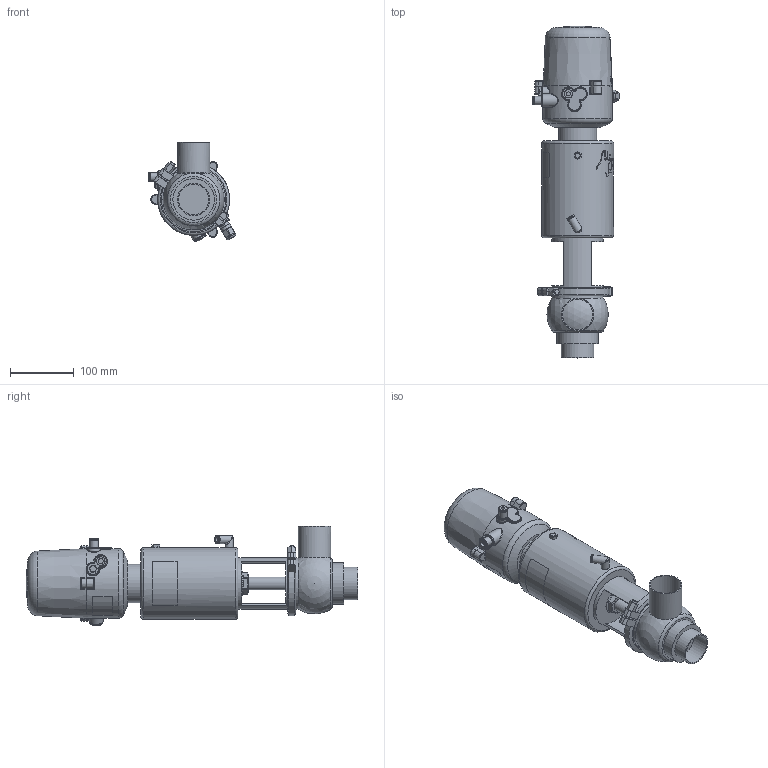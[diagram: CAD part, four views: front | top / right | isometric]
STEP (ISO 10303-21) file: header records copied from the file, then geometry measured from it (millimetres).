
FILE_DESCRIPTION (( 'STEP AP214' ), '1' );
FILE_NAME ('INNOVA N L W OD 2 T2 AS NC & C-TOP S_10.240.16.0055.STEP', '2024-08-06T08:02:39', ( '' ), ( '' ), 'SwSTEP 2.0', 'SolidWorks 2023', '' );
FILE_SCHEMA (( 'AUTOMOTIVE_DESIGN' ));
Length unit declared in the file: millimetre
Products named in the file (7): 10.240.15.0001_DN 050; INNOVA N L W OD 2 T2 AS NC & C-TOP S_10.240.16.0055; 10.426.15.0001_C-TOP S - 1 EV; 10.240.15.0010_DN 050; 10.240.15.0002_OD 2"; 10.240.15.0014_T2 AS P0; 10.240.15.0017_Estàndard
Assembly tree (6 placements, depth 2):
  INNOVA N L W OD 2 T2 AS NC & C-TOP S_10.240.16.0055
    10.240.15.0002_OD 2"
    10.240.15.0010_DN 050
    10.240.15.0014_T2 AS P0
    10.240.15.0017_Estàndard
    10.426.15.0001_C-TOP S - 1 EV
    10.240.15.0001_DN 050
Bounding box: 136.88 x 520 x 156.63 mm (x, y, z)
Volume: 3603458.6 mm3; surface area: 282410.2 mm2
Topology: 6 solids, 6 shells, 1099 faces, 2639 edges, 1760 vertices
Faces by surface type: plane 375, cylinder 330, cone 191, bspline 160, torus 37, sphere 6
Full cylindrical faces by diameter (mm): 0.371 x17, 0.512 x16, 0.658 x16, 0.795 x16, 0.94 x15, 1.098 x15, 1.241 x13, 1.382 x13, 1.523 x11, 1.669 x10, 2.201 x1, 4 x2, 5.5 x2, 6 x2, 6.15 x1, 8 x4, 8.5 x1, 10 x1, 10.5 x1, 11 x2, 12.5 x3, 13 x2, 13.5 x2, 16 x1, 17 x3, 20 x3, 20.5 x1, 22 x2, 31 x1, 34.5 x3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
Entity records: 57749 total; most frequent: CARTESIAN_POINT 27804, ORIENTED_EDGE 4486, DIRECTION 3593, EDGE_CURVE 2243, VERTEX_POINT 1593, EDGE_LOOP 1546, AXIS2_PLACEMENT_3D 1468, FACE_OUTER_BOUND 1311
